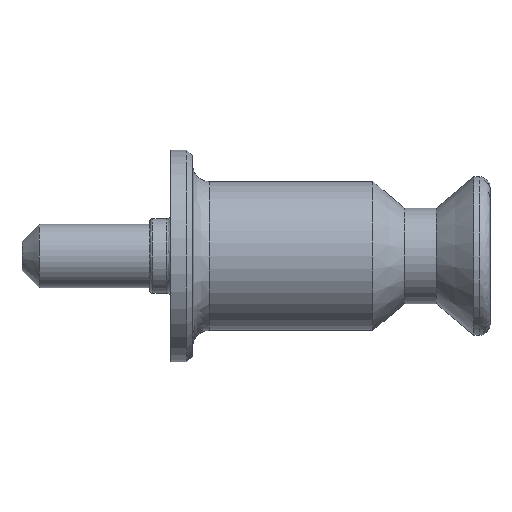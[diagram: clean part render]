
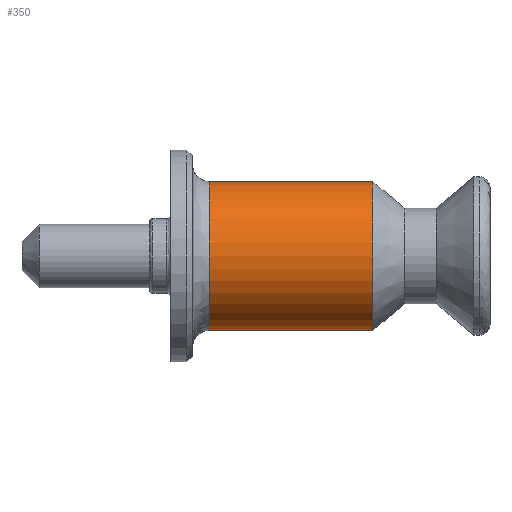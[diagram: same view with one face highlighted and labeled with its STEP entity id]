
A CAD part, left-side view. The second image highlights one B-rep face of the part: STEP entity #350.
In plain terms, the highlighted cylindrical face has radius 3.5 mm (diameter 7 mm), a partial arc.
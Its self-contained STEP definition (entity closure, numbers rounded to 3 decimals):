
#65 = VECTOR ( 'NONE', #2340, 1000. ) ;
#129 = LINE ( 'NONE', #2106, #142 ) ;
#140 = AXIS2_PLACEMENT_3D ( 'NONE', #1590, #1607, #1551 ) ;
#142 = VECTOR ( 'NONE', #2111, 1000. ) ;
#178 = AXIS2_PLACEMENT_3D ( 'NONE', #208, #1349, #1525 ) ;
#208 = CARTESIAN_POINT ( 'NONE',  ( 0., 0., 0. ) ) ;
#269 = CARTESIAN_POINT ( 'NONE',  ( 0., 5.51, 3.5 ) ) ;
#307 = VERTEX_POINT ( 'NONE', #269 ) ;
#350 = ADVANCED_FACE ( 'NONE', ( #1089 ), #1734, .T. ) ;
#655 = DIRECTION ( 'NONE',  ( 0., 0., -1. ) ) ;
#660 = DIRECTION ( 'NONE',  ( 0., 1., 0. ) ) ;
#661 = CARTESIAN_POINT ( 'NONE',  ( 0., 5.51, 0. ) ) ;
#705 = ORIENTED_EDGE ( 'NONE', *, *, #1738, .T. ) ;
#735 = VERTEX_POINT ( 'NONE', #2057 ) ;
#895 = EDGE_CURVE ( 'NONE', #2171, #2039, #990, .T. ) ;
#956 = ORIENTED_EDGE ( 'NONE', *, *, #1275, .F. ) ;
#990 = CIRCLE ( 'NONE', #140, 3.5 ) ;
#1045 = EDGE_LOOP ( 'NONE', ( #956, #1177, #705, #1896 ) ) ;
#1089 = FACE_OUTER_BOUND ( 'NONE', #1045, .T. ) ;
#1147 = AXIS2_PLACEMENT_3D ( 'NONE', #661, #660, #655 ) ;
#1177 = ORIENTED_EDGE ( 'NONE', *, *, #895, .T. ) ;
#1275 = EDGE_CURVE ( 'NONE', #2171, #307, #2178, .T. ) ;
#1349 = DIRECTION ( 'NONE',  ( 0., -1., 0. ) ) ;
#1525 = DIRECTION ( 'NONE',  ( 0., 0., -1. ) ) ;
#1551 = DIRECTION ( 'NONE',  ( 0., 0., -1. ) ) ;
#1590 = CARTESIAN_POINT ( 'NONE',  ( 0., 13.2, 0. ) ) ;
#1607 = DIRECTION ( 'NONE',  ( 0., -1., 0. ) ) ;
#1734 = CYLINDRICAL_SURFACE ( 'NONE', #178, 3.5 ) ;
#1738 = EDGE_CURVE ( 'NONE', #2039, #735, #129, .T. ) ;
#1770 = CARTESIAN_POINT ( 'NONE',  ( 0., 0., 3.5 ) ) ;
#1774 = EDGE_CURVE ( 'NONE', #735, #307, #2109, .T. ) ;
#1896 = ORIENTED_EDGE ( 'NONE', *, *, #1774, .T. ) ;
#2023 = CARTESIAN_POINT ( 'NONE',  ( 0., 13.2, -3.5 ) ) ;
#2039 = VERTEX_POINT ( 'NONE', #2023 ) ;
#2057 = CARTESIAN_POINT ( 'NONE',  ( 0., 5.51, -3.5 ) ) ;
#2106 = CARTESIAN_POINT ( 'NONE',  ( 0., 0., -3.5 ) ) ;
#2109 = CIRCLE ( 'NONE', #1147, 3.5 ) ;
#2111 = DIRECTION ( 'NONE',  ( 0., -1., 0. ) ) ;
#2171 = VERTEX_POINT ( 'NONE', #2182 ) ;
#2178 = LINE ( 'NONE', #1770, #65 ) ;
#2182 = CARTESIAN_POINT ( 'NONE',  ( 0., 13.2, 3.5 ) ) ;
#2340 = DIRECTION ( 'NONE',  ( 0., -1., 0. ) ) ;
